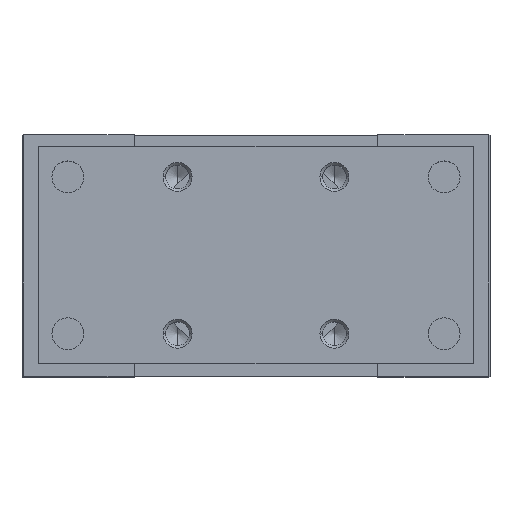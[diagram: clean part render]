
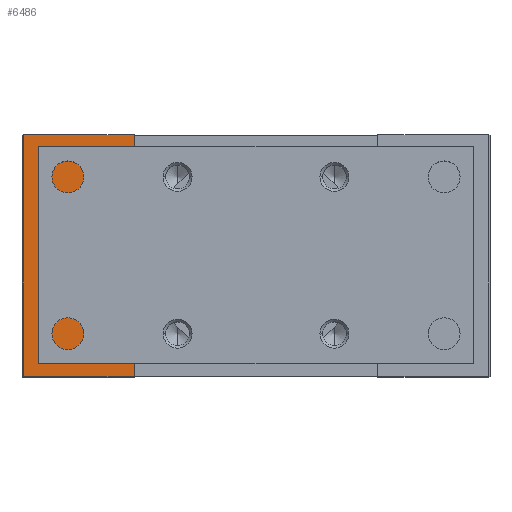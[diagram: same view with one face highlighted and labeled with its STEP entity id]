
A CAD part, top view. The second image highlights one B-rep face of the part: STEP entity #6486.
In plain terms, the highlighted planar face has unit normal (0, 0, 1).
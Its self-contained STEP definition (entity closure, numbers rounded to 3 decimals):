
#30 = EDGE_CURVE ( 'NONE', #418, #588, #10110, .T. ) ;
#119 = DIRECTION ( 'NONE',  ( 0., 0., 1. ) ) ;
#140 = AXIS2_PLACEMENT_3D ( 'NONE', #8444, #4261, #5897 ) ;
#350 = EDGE_LOOP ( 'NONE', ( #622, #2293 ) ) ;
#389 = CARTESIAN_POINT ( 'NONE',  ( -48.2, -25., 49. ) ) ;
#418 = VERTEX_POINT ( 'NONE', #389 ) ;
#588 = VERTEX_POINT ( 'NONE', #8465 ) ;
#622 = ORIENTED_EDGE ( 'NONE', *, *, #6912, .F. ) ;
#875 = VECTOR ( 'NONE', #4294, 1000. ) ;
#915 = VERTEX_POINT ( 'NONE', #9052 ) ;
#1068 = ORIENTED_EDGE ( 'NONE', *, *, #3868, .F. ) ;
#1150 = VECTOR ( 'NONE', #2590, 1000. ) ;
#1406 = ORIENTED_EDGE ( 'NONE', *, *, #2698, .T. ) ;
#1683 = LINE ( 'NONE', #8577, #1150 ) ;
#2293 = ORIENTED_EDGE ( 'NONE', *, *, #10286, .F. ) ;
#2302 = CIRCLE ( 'NONE', #2672, 6. ) ;
#2324 = VERTEX_POINT ( 'NONE', #3432 ) ;
#2552 = DIRECTION ( 'NONE',  ( 1., 0., 0. ) ) ;
#2590 = DIRECTION ( 'NONE',  ( 0., -1., 0. ) ) ;
#2672 = AXIS2_PLACEMENT_3D ( 'NONE', #5221, #4364, #6854 ) ;
#2698 = EDGE_CURVE ( 'NONE', #2324, #418, #1683, .T. ) ;
#2782 = CARTESIAN_POINT ( 'NONE',  ( -31., 0., 49. ) ) ;
#3432 = CARTESIAN_POINT ( 'NONE',  ( -48.2, 25., 49. ) ) ;
#3564 = DIRECTION ( 'NONE',  ( 1., 0., 0. ) ) ;
#3868 = EDGE_CURVE ( 'NONE', #5476, #588, #7566, .T. ) ;
#4107 = VECTOR ( 'NONE', #6847, 1000. ) ;
#4261 = DIRECTION ( 'NONE',  ( 0., 0., -1. ) ) ;
#4294 = DIRECTION ( 'NONE',  ( 0., -1., 0. ) ) ;
#4316 = LINE ( 'NONE', #10283, #6029 ) ;
#4364 = DIRECTION ( 'NONE',  ( 0., 0., 1. ) ) ;
#5221 = CARTESIAN_POINT ( 'NONE',  ( -37., 0., 49. ) ) ;
#5476 = VERTEX_POINT ( 'NONE', #7716 ) ;
#5897 = DIRECTION ( 'NONE',  ( 0., -1., 0. ) ) ;
#6029 = VECTOR ( 'NONE', #2552, 1000. ) ;
#6196 = AXIS2_PLACEMENT_3D ( 'NONE', #7111, #119, #3564 ) ;
#6486 = ADVANCED_FACE ( 'NONE', ( #8945, #10687 ), #6690, .F. ) ;
#6675 = CARTESIAN_POINT ( 'NONE',  ( -48.5, -25., 49. ) ) ;
#6690 = PLANE ( 'NONE',  #140 ) ;
#6847 = DIRECTION ( 'NONE',  ( 1., 0., 0. ) ) ;
#6854 = DIRECTION ( 'NONE',  ( 1., 0., 0. ) ) ;
#6912 = EDGE_CURVE ( 'NONE', #915, #10967, #2302, .T. ) ;
#7043 = EDGE_LOOP ( 'NONE', ( #9179, #1406, #9737, #1068 ) ) ;
#7111 = CARTESIAN_POINT ( 'NONE',  ( -37., 0., 49. ) ) ;
#7566 = LINE ( 'NONE', #10266, #875 ) ;
#7716 = CARTESIAN_POINT ( 'NONE',  ( -25.25, 25., 49. ) ) ;
#8444 = CARTESIAN_POINT ( 'NONE',  ( -48.5, 25., 49. ) ) ;
#8465 = CARTESIAN_POINT ( 'NONE',  ( -25.25, -25., 49. ) ) ;
#8577 = CARTESIAN_POINT ( 'NONE',  ( -48.2, 50., 49. ) ) ;
#8945 = FACE_OUTER_BOUND ( 'NONE', #7043, .T. ) ;
#9052 = CARTESIAN_POINT ( 'NONE',  ( -43., 0., 49. ) ) ;
#9179 = ORIENTED_EDGE ( 'NONE', *, *, #10888, .F. ) ;
#9737 = ORIENTED_EDGE ( 'NONE', *, *, #30, .T. ) ;
#10110 = LINE ( 'NONE', #6675, #4107 ) ;
#10158 = CIRCLE ( 'NONE', #6196, 6. ) ;
#10266 = CARTESIAN_POINT ( 'NONE',  ( -25.25, 25., 49. ) ) ;
#10283 = CARTESIAN_POINT ( 'NONE',  ( -48.5, 25., 49. ) ) ;
#10286 = EDGE_CURVE ( 'NONE', #10967, #915, #10158, .T. ) ;
#10687 = FACE_BOUND ( 'NONE', #350, .T. ) ;
#10888 = EDGE_CURVE ( 'NONE', #2324, #5476, #4316, .T. ) ;
#10967 = VERTEX_POINT ( 'NONE', #2782 ) ;
